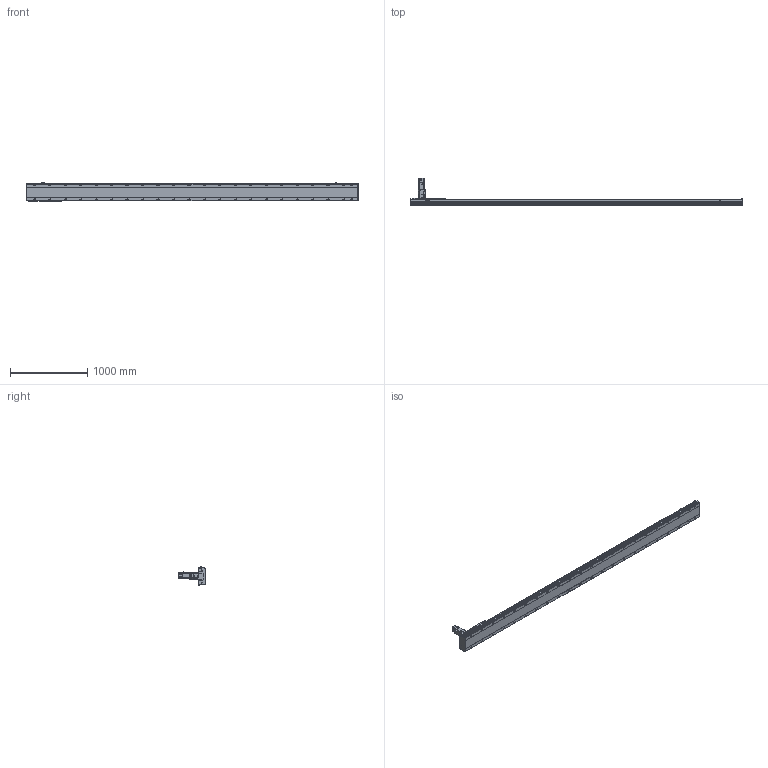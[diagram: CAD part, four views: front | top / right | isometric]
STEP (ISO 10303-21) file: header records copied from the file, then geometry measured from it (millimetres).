
FILE_DESCRIPTION(/* description */ ('STEP AP214'),/* implementation_level */ '2;1');
FILE_NAME(/* name */ 'SHS22A-L13-S3800-BC-T75-C1-N(0)',/* time_stamp */ '2022-06-15T02:28:27+02:00',/* author */ ('License CC BY-ND 4.0'),/* organization */ ('CADENAS'),/* preprocessor_version */ 'ST-DEVELOPER v18.102',/* originating_system */ 'PARTsolutions',/* authorisation */ ' ');
FILE_SCHEMA (('AUTOMOTIVE_DESIGN {1 0 10303 214 3 1 1}'));
Length unit declared in the file: millimetre
Products named in the file (7): SHS22A-L13-S3800-BC-T75-C1-N(0); PSC140-sensor; SHS22A-S3800_body2; T75-p1; SHS22A-S3800_body3; SHS22A-S3800_slider; SHS22A-L13-S3800-BC-T75-C1(0)_body
Assembly tree (13 placements, depth 2):
  SHS22A-L13-S3800-BC-T75-C1-N(0)
    PSC140-sensor  x3
    SHS22A-S3800_body2  x6
    T75-p1
    SHS22A-S3800_body3
    SHS22A-S3800_slider
    SHS22A-L13-S3800-BC-T75-C1(0)_body
Bounding box: 4294 x 350.8 x 238.4 mm (x, y, z)
Volume: 46031218.1 mm3; surface area: 4710850.7 mm2
Topology: 13 solids, 13 shells, 1965 faces, 5031 edges, 3292 vertices
Faces by surface type: plane 1368, cylinder 479, cone 109, torus 9
Full cylindrical faces by diameter (mm): 2.8 x3, 4.2 x2, 4.6 x3, 4.917 x4, 5 x4, 5.6 x24, 6 x31, 6.6 x24, 6.647 x8, 6.8 x9, 7.75 x6, 8 x3, 8.376 x44, 8.5 x44, 10 x4, 11 x4, 12 x24, 14 x44, 22 x1, 24.1 x1, 28 x1, 28.2 x1, 28.8 x1, 48.542 x1, 68 x1, 70 x1, 78 x1, 80 x2
Entity records: 33466 total; most frequent: CARTESIAN_POINT 6065, DIRECTION 5675, ORIENTED_EDGE 5052, EDGE_CURVE 2526, AXIS2_PLACEMENT_3D 2044, VERTEX_POINT 1838, FACE_BOUND 1812, EDGE_LOOP 1811
